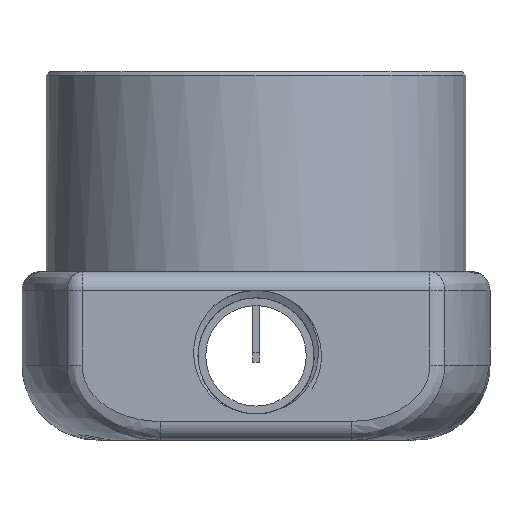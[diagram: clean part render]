
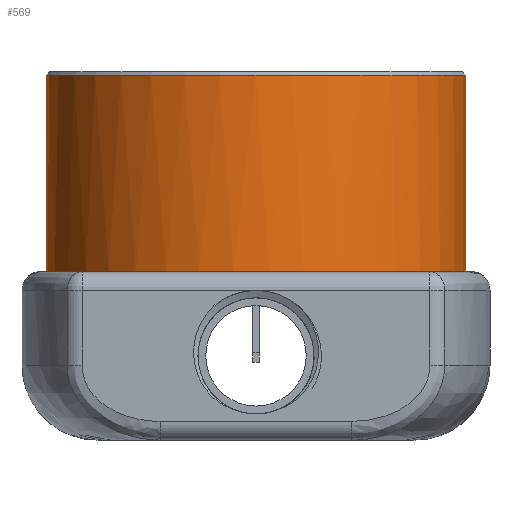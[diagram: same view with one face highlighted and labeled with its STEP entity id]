
A CAD part, front view. The second image highlights one B-rep face of the part: STEP entity #569.
In plain terms, the highlighted cylindrical face has radius 33.65 mm (diameter 67.3 mm), a full revolution.
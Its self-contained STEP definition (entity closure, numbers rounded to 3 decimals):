
#347=FACE_BOUND('',#1272,.T.);
#348=FACE_BOUND('',#1273,.T.);
#404=ELLIPSE('',#5325,47.588,33.65);
#430=CYLINDRICAL_SURFACE('',#5327,33.65);
#569=ADVANCED_FACE('',(#347,#348),#430,.T.);
#1272=EDGE_LOOP('',(#2797,#2798,#2799,#2800,#2801,#2802,#2803,#2804));
#1273=EDGE_LOOP('',(#2805));
#1595=LINE('',#12667,#1905);
#1596=LINE('',#12699,#1907);
#1905=VECTOR('',#6092,1.);
#1907=VECTOR('',#6098,1.);
#2155=CIRCLE('',#5196,33.65);
#2157=CIRCLE('',#5199,33.65);
#2162=CIRCLE('',#5210,33.65);
#2228=CIRCLE('',#5326,33.65);
#2797=ORIENTED_EDGE('',*,*,#4593,.F.);
#2798=ORIENTED_EDGE('',*,*,#4417,.T.);
#2799=ORIENTED_EDGE('',*,*,#4594,.F.);
#2800=ORIENTED_EDGE('',*,*,#4413,.T.);
#2801=ORIENTED_EDGE('',*,*,#4595,.F.);
#2802=ORIENTED_EDGE('',*,*,#4591,.T.);
#2803=ORIENTED_EDGE('',*,*,#4435,.T.);
#2804=ORIENTED_EDGE('',*,*,#4596,.F.);
#2805=ORIENTED_EDGE('',*,*,#4597,.T.);
#3946=VERTEX_POINT('',#7274);
#3947=VERTEX_POINT('',#7276);
#3950=VERTEX_POINT('',#7283);
#3951=VERTEX_POINT('',#7285);
#3964=VERTEX_POINT('',#7387);
#3965=VERTEX_POINT('',#7389);
#4069=VERTEX_POINT('',#12668);
#4070=VERTEX_POINT('',#12684);
#4071=VERTEX_POINT('',#12701);
#4413=EDGE_CURVE('',#3947,#3946,#2155,.T.);
#4417=EDGE_CURVE('',#3951,#3950,#2157,.T.);
#4435=EDGE_CURVE('',#3965,#3964,#2162,.T.);
#4591=EDGE_CURVE('',#4069,#3965,#1595,.T.);
#4593=EDGE_CURVE('',#3951,#4070,#5191,.T.);
#4594=EDGE_CURVE('',#3947,#3950,#404,.T.);
#4595=EDGE_CURVE('',#4069,#3946,#5192,.T.);
#4596=EDGE_CURVE('',#4070,#3964,#1596,.T.);
#4597=EDGE_CURVE('',#4071,#4071,#2228,.T.);
#5191=B_SPLINE_CURVE_WITH_KNOTS('',3,(#12674,#12675,#12676,#12677,#12678,
#12679,#12680,#12681,#12682,#12683),.UNSPECIFIED.,.F.,.F.,(4,3,3,4),(0.,
0.249,0.498,1.),.UNSPECIFIED.);
#5192=B_SPLINE_CURVE_WITH_KNOTS('',3,(#12686,#12687,#12688,#12689,#12690,
#12691,#12692,#12693,#12694,#12695,#12696,#12697,#12698),.UNSPECIFIED.,
 .F.,.F.,(4,3,3,3,4),(0.,0.249,0.499,0.749,
1.),.UNSPECIFIED.);
#5196=AXIS2_PLACEMENT_3D('',#7275,#5774,#5775);
#5199=AXIS2_PLACEMENT_3D('',#7284,#5782,#5783);
#5210=AXIS2_PLACEMENT_3D('',#7388,#5813,#5814);
#5325=AXIS2_PLACEMENT_3D('',#12685,#6096,#6097);
#5326=AXIS2_PLACEMENT_3D('',#12700,#6099,#6100);
#5327=AXIS2_PLACEMENT_3D('',#12702,#6101,#6102);
#5774=DIRECTION('',(0.,0.,1.));
#5775=DIRECTION('',(1.,0.,0.));
#5782=DIRECTION('',(0.,0.,1.));
#5783=DIRECTION('',(1.,0.,0.));
#5813=DIRECTION('',(0.,0.,1.));
#5814=DIRECTION('',(1.,0.,0.));
#6092=DIRECTION('',(0.,0.,-1.));
#6096=DIRECTION('',(0.,-0.707,-0.707));
#6097=DIRECTION('',(0.,-0.707,0.707));
#6098=DIRECTION('',(0.,0.,-1.));
#6099=DIRECTION('',(0.,0.,-1.));
#6100=DIRECTION('',(1.,0.,0.));
#6101=DIRECTION('',(0.,0.,1.));
#6102=DIRECTION('',(1.,0.,0.));
#7274=CARTESIAN_POINT('',(-32.888,3.12,41.5));
#7275=CARTESIAN_POINT('',(0.,-4.,41.5));
#7276=CARTESIAN_POINT('',(-3.174,29.5,41.5));
#7283=CARTESIAN_POINT('',(3.174,29.5,41.5));
#7284=CARTESIAN_POINT('',(0.,-4.,41.5));
#7285=CARTESIAN_POINT('',(32.888,3.12,41.5));
#7387=CARTESIAN_POINT('',(33.615,-2.475,13.5));
#7388=CARTESIAN_POINT('',(0.,-4.,13.5));
#7389=CARTESIAN_POINT('',(-33.615,-2.475,13.5));
#12667=CARTESIAN_POINT('',(-33.615,-2.475,11.25));
#12668=CARTESIAN_POINT('',(-33.615,-2.475,41.));
#12674=CARTESIAN_POINT('',(32.888,3.121,41.5));
#12675=CARTESIAN_POINT('',(32.987,2.665,41.426));
#12676=CARTESIAN_POINT('',(33.076,2.207,41.361));
#12677=CARTESIAN_POINT('',(33.156,1.745,41.303));
#12678=CARTESIAN_POINT('',(33.236,1.284,41.245));
#12679=CARTESIAN_POINT('',(33.306,0.82,41.195));
#12680=CARTESIAN_POINT('',(33.367,0.354,41.153));
#12681=CARTESIAN_POINT('',(33.489,-0.582,41.069));
#12682=CARTESIAN_POINT('',(33.572,-1.528,41.018));
#12683=CARTESIAN_POINT('',(33.615,-2.475,41.));
#12684=CARTESIAN_POINT('',(33.615,-2.475,41.));
#12685=CARTESIAN_POINT('',(0.,-4.,75.));
#12686=CARTESIAN_POINT('',(-33.615,-2.475,41.));
#12687=CARTESIAN_POINT('',(-33.594,-2.004,41.009));
#12688=CARTESIAN_POINT('',(-33.563,-1.533,41.026));
#12689=CARTESIAN_POINT('',(-33.522,-1.064,41.051));
#12690=CARTESIAN_POINT('',(-33.481,-0.595,41.077));
#12691=CARTESIAN_POINT('',(-33.43,-0.127,41.11));
#12692=CARTESIAN_POINT('',(-33.369,0.339,41.152));
#12693=CARTESIAN_POINT('',(-33.308,0.807,41.194));
#12694=CARTESIAN_POINT('',(-33.238,1.272,41.244));
#12695=CARTESIAN_POINT('',(-33.158,1.736,41.302));
#12696=CARTESIAN_POINT('',(-33.077,2.2,41.36));
#12697=CARTESIAN_POINT('',(-32.987,2.662,41.426));
#12698=CARTESIAN_POINT('',(-32.888,3.12,41.5));
#12699=CARTESIAN_POINT('',(33.615,-2.475,11.25));
#12700=CARTESIAN_POINT('',(0.,-4.,45.));
#12701=CARTESIAN_POINT('',(33.65,-4.,45.));
#12702=CARTESIAN_POINT('',(0.,-4.,11.25));
